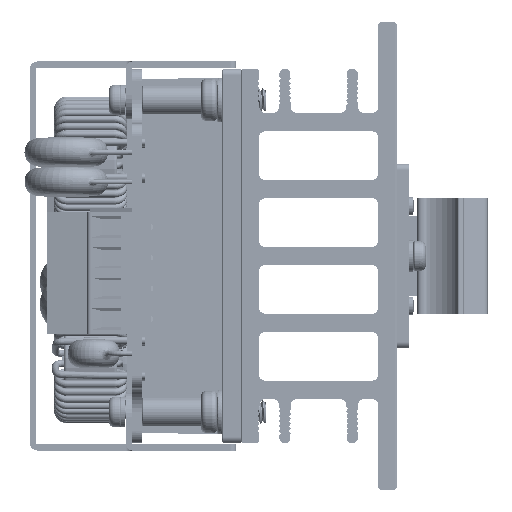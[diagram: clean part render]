
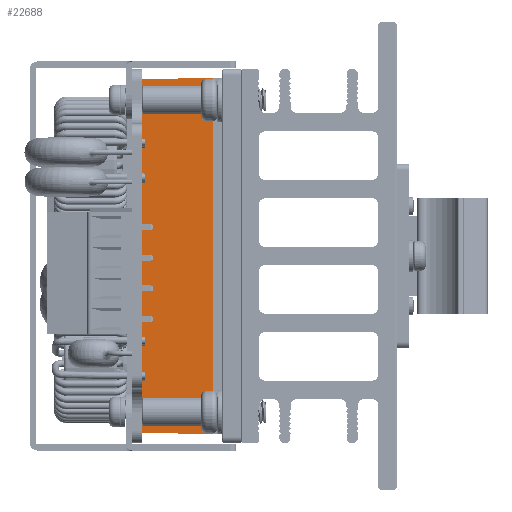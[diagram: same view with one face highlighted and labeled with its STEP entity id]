
A CAD part, left-side view. The second image highlights one B-rep face of the part: STEP entity #22688.
In plain terms, the highlighted planar face has unit normal (-1, 0.009, 0).
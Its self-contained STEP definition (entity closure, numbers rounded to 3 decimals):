
#5358 = DIRECTION ( 'NONE',  ( -0.009, -1., 0.009 ) ) ;
#8672 = ORIENTED_EDGE ( 'NONE', *, *, #9564, .T. ) ;
#9564 = EDGE_CURVE ( 'NONE', #94484, #64322, #48226, .T. ) ;
#10746 = CARTESIAN_POINT ( 'NONE',  ( -2.672, 7.5, -28.95 ) ) ;
#22066 = CARTESIAN_POINT ( 'NONE',  ( -2.672, 7.5, 28.95 ) ) ;
#22335 = VECTOR ( 'NONE', #138221, 1000. ) ;
#22688 = ADVANCED_FACE ( 'NONE', ( #119289 ), #117503, .T. ) ;
#23388 = VECTOR ( 'NONE', #5358, 1000. ) ;
#28092 = CARTESIAN_POINT ( 'NONE',  ( -2.571, 19.1, 28.95 ) ) ;
#38779 = LINE ( 'NONE', #39657, #123333 ) ;
#38936 = CARTESIAN_POINT ( 'NONE',  ( -2.571, 19.1, 28.849 ) ) ;
#39657 = CARTESIAN_POINT ( 'NONE',  ( -2.668, 8.005, -28.946 ) ) ;
#45284 = ORIENTED_EDGE ( 'NONE', *, *, #49634, .F. ) ;
#46000 = CARTESIAN_POINT ( 'NONE',  ( -2.672, 7.5, 28.95 ) ) ;
#48226 = LINE ( 'NONE', #22066, #89438 ) ;
#49634 = EDGE_CURVE ( 'NONE', #64904, #64322, #60435, .T. ) ;
#60435 = LINE ( 'NONE', #46000, #23388 ) ;
#61068 = EDGE_LOOP ( 'NONE', ( #8672, #45284, #126855, #84780 ) ) ;
#64322 = VERTEX_POINT ( 'NONE', #73592 ) ;
#64904 = VERTEX_POINT ( 'NONE', #38936 ) ;
#65077 = DIRECTION ( 'NONE',  ( 0.009, 1., 0. ) ) ;
#73592 = CARTESIAN_POINT ( 'NONE',  ( -2.672, 7.5, 28.95 ) ) ;
#81381 = LINE ( 'NONE', #28092, #22335 ) ;
#84780 = ORIENTED_EDGE ( 'NONE', *, *, #164766, .T. ) ;
#89438 = VECTOR ( 'NONE', #170992, 1000. ) ;
#93843 = EDGE_CURVE ( 'NONE', #131366, #64904, #81381, .T. ) ;
#94484 = VERTEX_POINT ( 'NONE', #10746 ) ;
#117503 = PLANE ( 'NONE',  #132576 ) ;
#119289 = FACE_OUTER_BOUND ( 'NONE', #61068, .T. ) ;
#123333 = VECTOR ( 'NONE', #136273, 1000. ) ;
#126855 = ORIENTED_EDGE ( 'NONE', *, *, #93843, .F. ) ;
#131366 = VERTEX_POINT ( 'NONE', #144026 ) ;
#132576 = AXIS2_PLACEMENT_3D ( 'NONE', #172507, #174283, #65077 ) ;
#136273 = DIRECTION ( 'NONE',  ( -0.009, -1., -0.009 ) ) ;
#138221 = DIRECTION ( 'NONE',  ( 0., 0., 1. ) ) ;
#144026 = CARTESIAN_POINT ( 'NONE',  ( -2.571, 19.1, -28.849 ) ) ;
#164766 = EDGE_CURVE ( 'NONE', #131366, #94484, #38779, .T. ) ;
#170992 = DIRECTION ( 'NONE',  ( 0., 0., 1. ) ) ;
#172507 = CARTESIAN_POINT ( 'NONE',  ( -2.672, 7.5, 28.95 ) ) ;
#174283 = DIRECTION ( 'NONE',  ( -1., 0.009, 0. ) ) ;
